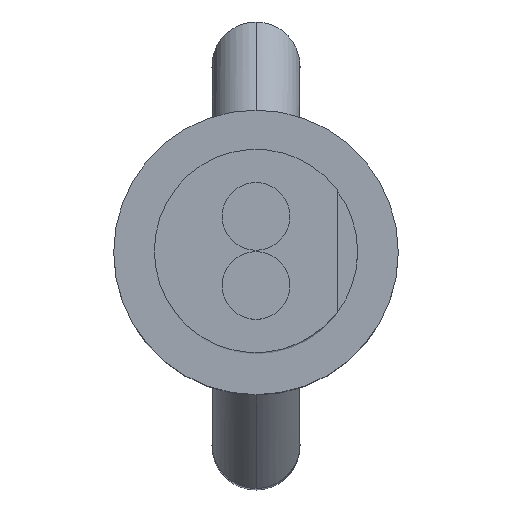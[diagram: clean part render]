
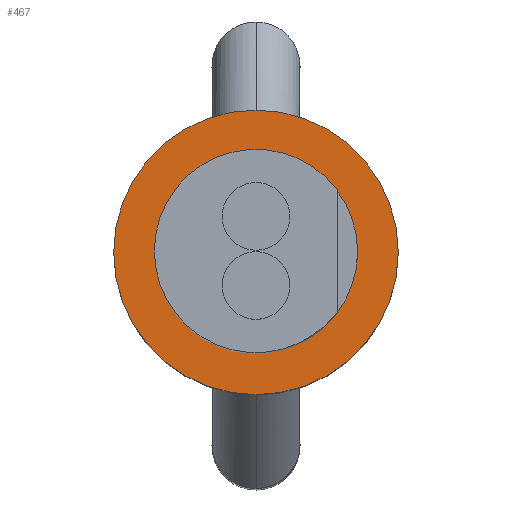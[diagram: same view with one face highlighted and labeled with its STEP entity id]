
A CAD part, top view. The second image highlights one B-rep face of the part: STEP entity #467.
In plain terms, the highlighted planar face has unit normal (0, 0, 1) as drawn and (-1, 0, 0) by its records, which use the part's own axes.
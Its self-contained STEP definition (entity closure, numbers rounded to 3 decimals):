
#132 = CARTESIAN_POINT ( 'NONE',  ( 12., 0., 2.1 ) ) ;
#133 = DIRECTION ( 'NONE',  ( 0., 0., -1. ) ) ;
#134 = DIRECTION ( 'NONE',  ( 1., 0., 0. ) ) ;
#135 = CARTESIAN_POINT ( 'NONE',  ( 12., 0., 0. ) ) ;
#136 = AXIS2_PLACEMENT_3D ( 'NONE', #135, #134, #133 ) ;
#137 = CIRCLE ( 'NONE', #136, 2.1 ) ;
#138 = CARTESIAN_POINT ( 'NONE',  ( 12., 0., -2.1 ) ) ;
#148 = DIRECTION ( 'NONE',  ( 0., 0., -1. ) ) ;
#149 = DIRECTION ( 'NONE',  ( 1., 0., 0. ) ) ;
#150 = CARTESIAN_POINT ( 'NONE',  ( 12., 0., 0. ) ) ;
#151 = AXIS2_PLACEMENT_3D ( 'NONE', #150, #149, #148 ) ;
#152 = PLANE ( 'NONE',  #151 ) ;
#153 = DIRECTION ( 'NONE',  ( 0., 0., -1. ) ) ;
#154 = DIRECTION ( 'NONE',  ( 1., 0., 0. ) ) ;
#155 = CARTESIAN_POINT ( 'NONE',  ( 12., 0., 0. ) ) ;
#156 = AXIS2_PLACEMENT_3D ( 'NONE', #155, #154, #153 ) ;
#157 = CIRCLE ( 'NONE', #156, 2.1 ) ;
#158 = FACE_OUTER_BOUND ( 'NONE', #468, .T. ) ;
#466 = EDGE_CURVE ( 'NONE', #505, #502, #157, .T. ) ;
#467 = ADVANCED_FACE ( 'NONE', ( #158 ), #152, .F. ) ;
#468 = EDGE_LOOP ( 'NONE', ( #480, #481 ) ) ;
#480 = ORIENTED_EDGE ( 'NONE', *, *, #466, .F. ) ;
#481 = ORIENTED_EDGE ( 'NONE', *, *, #504, .F. ) ;
#502 = VERTEX_POINT ( 'NONE', #138 ) ;
#504 = EDGE_CURVE ( 'NONE', #502, #505, #137, .T. ) ;
#505 = VERTEX_POINT ( 'NONE', #132 ) ;
